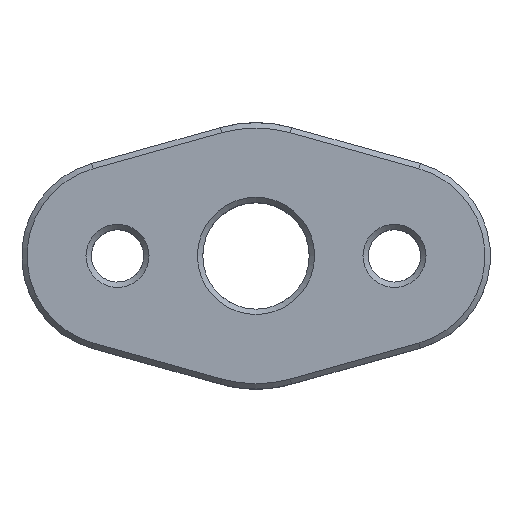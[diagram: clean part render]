
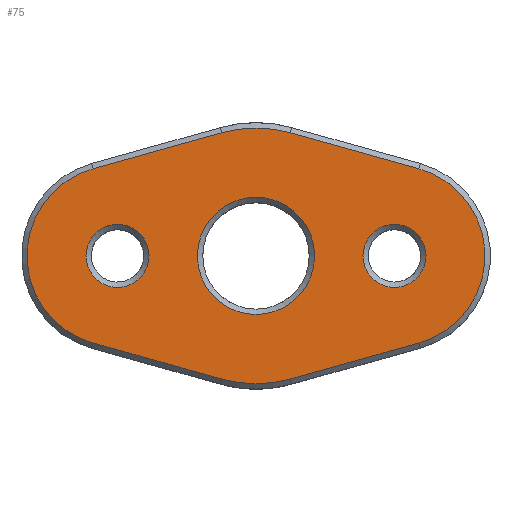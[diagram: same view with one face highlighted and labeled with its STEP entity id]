
A CAD part, top view. The second image highlights one B-rep face of the part: STEP entity #75.
In plain terms, the highlighted planar face has unit normal (0, 0, 1).
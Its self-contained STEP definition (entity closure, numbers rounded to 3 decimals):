
#75 = ADVANCED_FACE( '', ( #168, #169, #170, #171 ), #172, .F. );
#168 = FACE_BOUND( '', #285, .T. );
#169 = FACE_BOUND( '', #286, .T. );
#170 = FACE_BOUND( '', #287, .T. );
#171 = FACE_OUTER_BOUND( '', #288, .T. );
#172 = PLANE( '', #289 );
#285 = EDGE_LOOP( '', ( #449 ) );
#286 = EDGE_LOOP( '', ( #450 ) );
#287 = EDGE_LOOP( '', ( #451 ) );
#288 = EDGE_LOOP( '', ( #452, #453, #454, #455, #456, #457, #458, #459 ) );
#289 = AXIS2_PLACEMENT_3D( '', #460, #461, #462 );
#449 = ORIENTED_EDGE( '', *, *, #675, .T. );
#450 = ORIENTED_EDGE( '', *, *, #676, .T. );
#451 = ORIENTED_EDGE( '', *, *, #677, .T. );
#452 = ORIENTED_EDGE( '', *, *, #678, .T. );
#453 = ORIENTED_EDGE( '', *, *, #679, .T. );
#454 = ORIENTED_EDGE( '', *, *, #680, .T. );
#455 = ORIENTED_EDGE( '', *, *, #681, .T. );
#456 = ORIENTED_EDGE( '', *, *, #632, .T. );
#457 = ORIENTED_EDGE( '', *, *, #682, .T. );
#458 = ORIENTED_EDGE( '', *, *, #647, .T. );
#459 = ORIENTED_EDGE( '', *, *, #668, .T. );
#460 = CARTESIAN_POINT( '', ( 0., 0., 6. ) );
#461 = DIRECTION( '', ( 0., 0., -1. ) );
#462 = DIRECTION( '', ( -1., 0., 0. ) );
#632 = EDGE_CURVE( '', #739, #737, #740, .T. );
#647 = EDGE_CURVE( '', #757, #761, #763, .T. );
#668 = EDGE_CURVE( '', #761, #793, #795, .F. );
#675 = EDGE_CURVE( '', #806, #806, #807, .T. );
#676 = EDGE_CURVE( '', #808, #808, #809, .T. );
#677 = EDGE_CURVE( '', #810, #810, #811, .T. );
#678 = EDGE_CURVE( '', #793, #812, #813, .T. );
#679 = EDGE_CURVE( '', #812, #814, #815, .F. );
#680 = EDGE_CURVE( '', #814, #816, #817, .T. );
#681 = EDGE_CURVE( '', #816, #739, #818, .F. );
#682 = EDGE_CURVE( '', #737, #757, #819, .F. );
#737 = VERTEX_POINT( '', #890 );
#739 = VERTEX_POINT( '', #893 );
#740 = LINE( '', #894, #895 );
#757 = VERTEX_POINT( '', #918 );
#761 = VERTEX_POINT( '', #924 );
#763 = LINE( '', #927, #928 );
#793 = VERTEX_POINT( '', #1021 );
#795 = CIRCLE( '', #1024, 12. );
#806 = VERTEX_POINT( '', #1153 );
#807 = CIRCLE( '', #1154, 2.959 );
#808 = VERTEX_POINT( '', #1155 );
#809 = CIRCLE( '', #1156, 2.959 );
#810 = VERTEX_POINT( '', #1157 );
#811 = CIRCLE( '', #1158, 5.5 );
#812 = VERTEX_POINT( '', #1159 );
#813 = LINE( '', #1160, #1161 );
#814 = VERTEX_POINT( '', #1162 );
#815 = CIRCLE( '', #1163, 8.5 );
#816 = VERTEX_POINT( '', #1164 );
#817 = LINE( '', #1165, #1166 );
#818 = CIRCLE( '', #1167, 12. );
#819 = CIRCLE( '', #1168, 8.5 );
#890 = CARTESIAN_POINT( '', ( -15.288, 8.186, 6. ) );
#893 = CARTESIAN_POINT( '', ( -3.231, 11.557, 6. ) );
#894 = CARTESIAN_POINT( '', ( -3.231, 11.557, 6. ) );
#895 = VECTOR( '', #1305, 1000. );
#918 = CARTESIAN_POINT( '', ( -15.288, -8.186, 6. ) );
#924 = CARTESIAN_POINT( '', ( -3.231, -11.557, 6. ) );
#927 = CARTESIAN_POINT( '', ( -3.231, -11.557, 6. ) );
#928 = VECTOR( '', #1321, 1000. );
#1021 = CARTESIAN_POINT( '', ( 3.231, -11.557, 6. ) );
#1024 = AXIS2_PLACEMENT_3D( '', #1353, #1354, #1355 );
#1153 = CARTESIAN_POINT( '', ( 10.042, 0., 6. ) );
#1154 = AXIS2_PLACEMENT_3D( '', #1362, #1363, #1364 );
#1155 = CARTESIAN_POINT( '', ( -15.959, 0., 6. ) );
#1156 = AXIS2_PLACEMENT_3D( '', #1365, #1366, #1367 );
#1157 = CARTESIAN_POINT( '', ( -5.5, 0., 6. ) );
#1158 = AXIS2_PLACEMENT_3D( '', #1368, #1369, #1370 );
#1159 = CARTESIAN_POINT( '', ( 15.288, -8.186, 6. ) );
#1160 = CARTESIAN_POINT( '', ( 3.231, -11.557, 6. ) );
#1161 = VECTOR( '', #1371, 1000. );
#1162 = CARTESIAN_POINT( '', ( 15.288, 8.186, 6. ) );
#1163 = AXIS2_PLACEMENT_3D( '', #1372, #1373, #1374 );
#1164 = CARTESIAN_POINT( '', ( 3.231, 11.557, 6. ) );
#1165 = CARTESIAN_POINT( '', ( 3.231, 11.557, 6. ) );
#1166 = VECTOR( '', #1375, 1000. );
#1167 = AXIS2_PLACEMENT_3D( '', #1376, #1377, #1378 );
#1168 = AXIS2_PLACEMENT_3D( '', #1379, #1380, #1381 );
#1305 = DIRECTION( '', ( -0.963, -0.269, 0. ) );
#1321 = DIRECTION( '', ( 0.963, -0.269, 0. ) );
#1353 = CARTESIAN_POINT( '', ( 0., 0., 6. ) );
#1354 = DIRECTION( '', ( 0., 0., -1. ) );
#1355 = DIRECTION( '', ( -1., 0., 0. ) );
#1362 = CARTESIAN_POINT( '', ( 13., 0., 6. ) );
#1363 = DIRECTION( '', ( 0., 0., -1. ) );
#1364 = DIRECTION( '', ( -1., 0., 0. ) );
#1365 = CARTESIAN_POINT( '', ( -13., 0., 6. ) );
#1366 = DIRECTION( '', ( 0., 0., -1. ) );
#1367 = DIRECTION( '', ( -1., 0., 0. ) );
#1368 = CARTESIAN_POINT( '', ( 0., 0., 6. ) );
#1369 = DIRECTION( '', ( 0., 0., -1. ) );
#1370 = DIRECTION( '', ( -1., 0., 0. ) );
#1371 = DIRECTION( '', ( 0.963, 0.269, 0. ) );
#1372 = CARTESIAN_POINT( '', ( 13., 0., 6. ) );
#1373 = DIRECTION( '', ( 0., 0., -1. ) );
#1374 = DIRECTION( '', ( -1., 0., 0. ) );
#1375 = DIRECTION( '', ( -0.963, 0.269, 0. ) );
#1376 = CARTESIAN_POINT( '', ( 0., 0., 6. ) );
#1377 = DIRECTION( '', ( 0., 0., -1. ) );
#1378 = DIRECTION( '', ( -1., 0., 0. ) );
#1379 = CARTESIAN_POINT( '', ( -13., 0., 6. ) );
#1380 = DIRECTION( '', ( 0., 0., -1. ) );
#1381 = DIRECTION( '', ( -1., 0., 0. ) );
